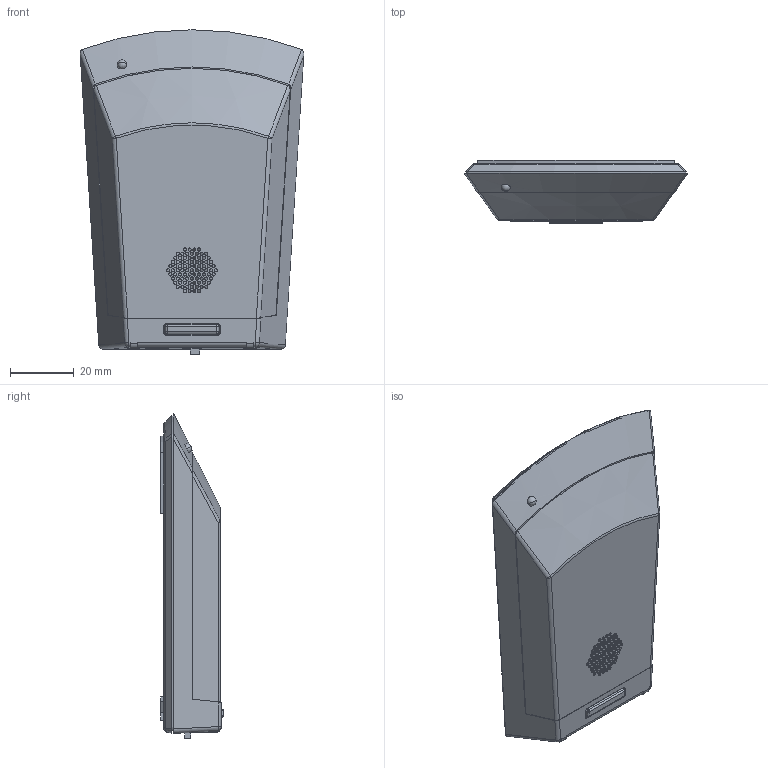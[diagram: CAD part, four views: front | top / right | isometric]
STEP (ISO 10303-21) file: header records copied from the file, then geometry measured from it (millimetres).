
FILE_DESCRIPTION((''),'2;1');
FILE_NAME('BOUNDARY860_6101_001_ASM','2024-06-06T03:42:11',('DELL'),(''),'CREO PARAMETRIC BY PTC INC, 2022073','CREO PARAMETRIC BY PTC INC, 2022073','');
FILE_SCHEMA(('CONFIG_CONTROL_DESIGN'));
Length unit declared in the file: millimetre
Products named in the file (26): BOUNDARY-GENERIC_2_2; BOUNDARY-GENERIC_2_ASM; DS8B-SCREEN_2; DS8B-TOP_2; DS8B-BOTTOM_2; DS8B-PCB-BOTTOM_2; DS8B-CHARGER-CONTACT_2; USB-MINI-MOLEX-475900001_2; SWITCH-ESWITCH-EG2211_2; IR-SENSOR-VISHAY-TSOP752X_2; DS8B-PCB-TOP_2; BATTERY-AA__2; DS8B-BDOOR_2; SCREW-PLASTITE-2-28_2; DS8B-PAD-FRONT_2; DS8B-PAD-BACK_2; SWITCH-MOM-SMK-JPM1110-0211C_2; DS8B-BUTTON_2; LED-BI-COLOR-XX_2; MIC-CAPSULE-DT-XX_2; FPGA-XX_2; BAT-TERM-DUAL--KEYSTONE-5212_2; BAT_TERM-KEY-SPR-AAA-5204_2; BAT_TERM-KEY-POS-AAA-5226_2; DS8-TABLETOP-_ASM_2_ASM; BOUNDARY860_6101_001_ASM
Assembly tree (30 placements, depth 4):
  BOUNDARY860_6101_001_ASM
    DS8-TABLETOP-_ASM_2_ASM
      BOUNDARY-GENERIC_2_ASM
        BOUNDARY-GENERIC_2_2
      DS8B-SCREEN_2
      DS8B-TOP_2
      DS8B-BOTTOM_2
      DS8B-PCB-BOTTOM_2
      DS8B-CHARGER-CONTACT_2  x2
      USB-MINI-MOLEX-475900001_2
      SWITCH-ESWITCH-EG2211_2
      IR-SENSOR-VISHAY-TSOP752X_2
      DS8B-PCB-TOP_2
      BATTERY-AA__2  x2
      DS8B-BDOOR_2
      SCREW-PLASTITE-2-28_2  x4
      DS8B-PAD-FRONT_2
      DS8B-PAD-BACK_2
      SWITCH-MOM-SMK-JPM1110-0211C_2
      DS8B-BUTTON_2
      LED-BI-COLOR-XX_2
      MIC-CAPSULE-DT-XX_2
      FPGA-XX_2
      BAT-TERM-DUAL--KEYSTONE-5212_2
      BAT_TERM-KEY-SPR-AAA-5204_2
      BAT_TERM-KEY-POS-AAA-5226_2
Bounding box: 70.09 x 19.75 x 101.73 mm (x, y, z)
Volume: 50642 mm3; surface area: 62039.5 mm2
Topology: 28 solids, 28 shells, 1744 faces, 4879 edges, 3174 vertices
Faces by surface type: plane 1100, cylinder 532, cone 41, torus 41, sphere 20, extrusion 6, bspline 4
Entity records: 57226 total; most frequent: CARTESIAN_POINT 12906, ORIENTED_EDGE 9238, DIRECTION 9051, EDGE_CURVE 4619, VECTOR 3225, LINE 3219, VERTEX_POINT 3030, AXIS2_PLACEMENT_3D 2913
